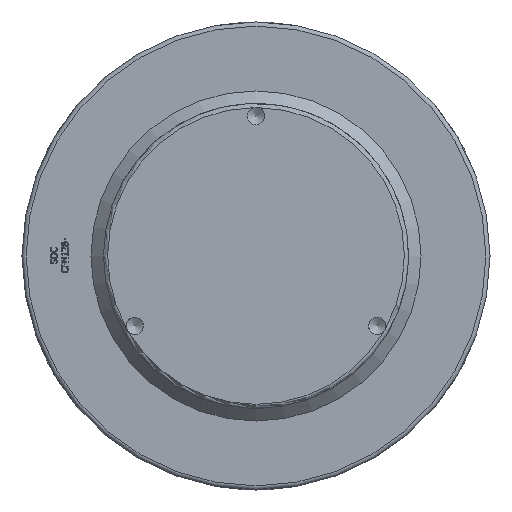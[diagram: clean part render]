
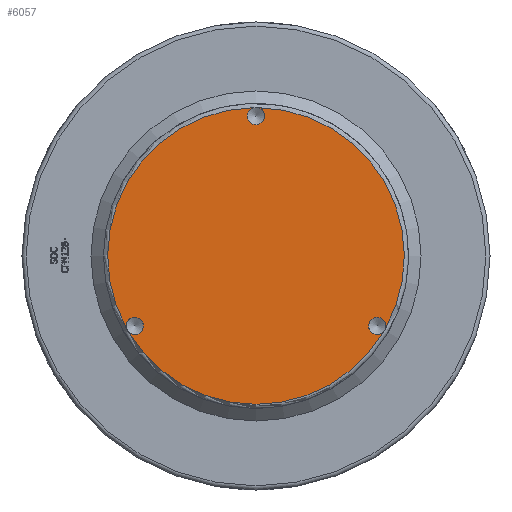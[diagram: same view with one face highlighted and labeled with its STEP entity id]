
A CAD part, front view. The second image highlights one B-rep face of the part: STEP entity #6057.
In plain terms, the highlighted planar face has unit normal (0, -1, 0) as drawn and (0, 1, 0) by its records, which use the part's own axes.
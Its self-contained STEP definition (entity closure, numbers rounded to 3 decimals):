
#1239=PLANE('',#6471);
#1842=FACE_OUTER_BOUND('',#2199,.T.);
#2199=EDGE_LOOP('',(#4200,#4201,#4202,#4203,#4204,#4205));
#2600=CIRCLE('',#6461,10.376);
#2602=CIRCLE('',#6465,10.376);
#2603=CIRCLE('',#6467,177.5);
#2604=CIRCLE('',#6468,177.5);
#2605=CIRCLE('',#6469,177.5);
#2607=CIRCLE('',#6472,10.376);
#2628=VERTEX_POINT('',#7578);
#2629=VERTEX_POINT('',#7579);
#2631=VERTEX_POINT('',#7595);
#2632=VERTEX_POINT('',#7596);
#2633=VERTEX_POINT('',#7609);
#2634=VERTEX_POINT('',#7611);
#3259=EDGE_CURVE('',#2629,#2628,#2600,.T.);
#3262=EDGE_CURVE('',#2632,#2631,#2602,.T.);
#3263=EDGE_CURVE('',#2629,#2633,#2603,.T.);
#3265=EDGE_CURVE('',#2634,#2631,#2604,.T.);
#3266=EDGE_CURVE('',#2632,#2628,#2605,.T.);
#3268=EDGE_CURVE('',#2634,#2633,#2607,.T.);
#4200=ORIENTED_EDGE('',*,*,#3259,.T.);
#4201=ORIENTED_EDGE('',*,*,#3266,.F.);
#4202=ORIENTED_EDGE('',*,*,#3262,.T.);
#4203=ORIENTED_EDGE('',*,*,#3265,.F.);
#4204=ORIENTED_EDGE('',*,*,#3268,.T.);
#4205=ORIENTED_EDGE('',*,*,#3263,.F.);
#6057=ADVANCED_FACE('',(#1842),#1239,.T.);
#6461=AXIS2_PLACEMENT_3D('',#7590,#6667,#6668);
#6465=AXIS2_PLACEMENT_3D('',#7607,#6675,#6676);
#6467=AXIS2_PLACEMENT_3D('',#7610,#6679,#6680);
#6468=AXIS2_PLACEMENT_3D('',#7618,#6681,#6682);
#6469=AXIS2_PLACEMENT_3D('',#7619,#6683,#6684);
#6471=AXIS2_PLACEMENT_3D('',#7622,#6687,#6688);
#6472=AXIS2_PLACEMENT_3D('',#7623,#6689,#6690);
#6667=DIRECTION('center_axis',(0.,-1.,0.));
#6668=DIRECTION('ref_axis',(-0.5,0.,-0.866));
#6675=DIRECTION('center_axis',(0.,-1.,0.));
#6676=DIRECTION('ref_axis',(-0.5,0.,0.866));
#6679=DIRECTION('center_axis',(0.,-1.,0.));
#6680=DIRECTION('ref_axis',(-1.,0.,0.));
#6681=DIRECTION('center_axis',(0.,-1.,0.));
#6682=DIRECTION('ref_axis',(-1.,0.,0.));
#6683=DIRECTION('center_axis',(0.,-1.,0.));
#6684=DIRECTION('ref_axis',(-1.,0.,0.));
#6687=DIRECTION('center_axis',(0.,1.,0.));
#6688=DIRECTION('ref_axis',(0.,0.,1.));
#6689=DIRECTION('center_axis',(0.,-1.,0.));
#6690=DIRECTION('ref_axis',(1.,0.,0.));
#7578=CARTESIAN_POINT('',(152.275,336.,-91.206));
#7579=CARTESIAN_POINT('',(155.124,336.,-86.271));
#7590=CARTESIAN_POINT('Origin',(145.059,336.,-83.75));
#7595=CARTESIAN_POINT('',(-155.124,336.,-86.271));
#7596=CARTESIAN_POINT('',(-152.275,336.,-91.206));
#7607=CARTESIAN_POINT('Origin',(-145.059,336.,-83.75));
#7609=CARTESIAN_POINT('',(2.849,336.,177.477));
#7610=CARTESIAN_POINT('Origin',(0.,336.,0.));
#7611=CARTESIAN_POINT('',(-2.849,336.,177.477));
#7618=CARTESIAN_POINT('Origin',(0.,336.,0.));
#7619=CARTESIAN_POINT('Origin',(0.,336.,0.));
#7622=CARTESIAN_POINT('Origin',(182.5,336.,0.));
#7623=CARTESIAN_POINT('Origin',(0.,336.,167.5));
